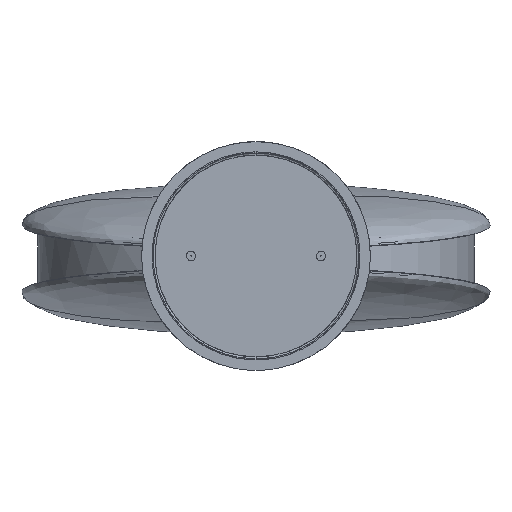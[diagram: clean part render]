
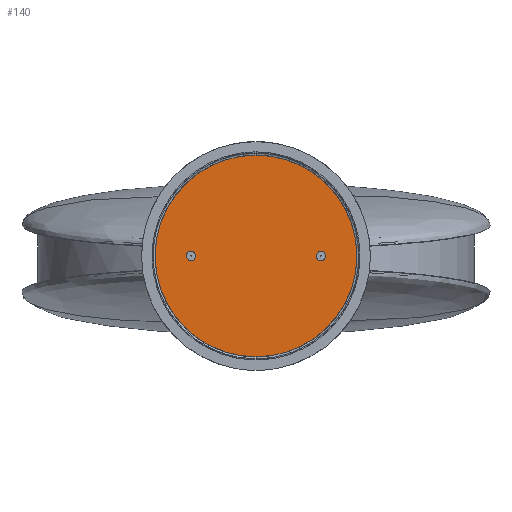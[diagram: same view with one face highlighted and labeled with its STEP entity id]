
A CAD part, top view. The second image highlights one B-rep face of the part: STEP entity #140.
In plain terms, the highlighted planar face has unit normal (0, 0, 1).
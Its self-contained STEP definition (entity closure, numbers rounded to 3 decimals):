
#140=ADVANCED_FACE('',(#230),#1165,.T.);
#230=FACE_OUTER_BOUND('',#326,.T.);
#326=EDGE_LOOP('',(#638,#639));
#638=ORIENTED_EDGE('',*,*,#836,.T.);
#639=ORIENTED_EDGE('',*,*,#837,.T.);
#836=EDGE_CURVE('',#1126,#1127,#909,.T.);
#837=EDGE_CURVE('',#1127,#1126,#910,.T.);
#909=B_SPLINE_CURVE_WITH_KNOTS('',3,(#4398,#4399,#4400,#4401,#4402,#4403,
#4404,#4405,#4406,#4407,#4408,#4409,#4410,#4411,#4412,#4413,#4414,#4415,
#4416,#4417,#4418,#4419,#4420,#4421,#4422,#4423,#4424,#4425,#4426,#4427,
#4428,#4429,#4430,#4431,#4432,#4433,#4434),.UNSPECIFIED.,.F.,.F.,(4,1,1,
1,1,1,1,1,1,1,1,1,1,1,1,1,3,1,1,1,1,1,1,1,1,1,1,1,1,1,1,1,4),(0.,9.534,
19.068,28.603,38.137,47.671,57.205,
66.739,76.273,85.808,95.342,104.876,
114.41,123.944,133.478,143.013,152.547,
162.081,171.615,181.149,190.684,200.218,
209.752,219.286,228.82,238.354,247.889,
257.423,266.957,276.491,286.025,295.559,
305.094),.UNSPECIFIED.);
#910=B_SPLINE_CURVE_WITH_KNOTS('',3,(#4435,#4436,#4437,#4438,#4439,#4440,
#4441,#4442,#4443,#4444,#4445,#4446,#4447,#4448,#4449,#4450,#4451,#4452,
#4453,#4454,#4455,#4456,#4457,#4458,#4459,#4460,#4461,#4462,#4463,#4464,
#4465,#4466,#4467,#4468,#4469,#4470,#4471),.UNSPECIFIED.,.F.,.F.,(4,1,1,
1,1,1,1,1,1,1,1,1,1,1,1,1,3,1,1,1,1,1,1,1,1,1,1,1,1,1,1,1,4),(0.,9.534,
19.068,28.603,38.137,47.671,57.205,
66.739,76.273,85.808,95.342,104.876,
114.41,123.944,133.478,143.013,152.547,
162.081,171.615,181.149,190.684,200.218,
209.752,219.286,228.82,238.354,247.889,
257.423,266.957,276.491,286.025,295.559,
305.094),.UNSPECIFIED.);
#1126=VERTEX_POINT('',#4306);
#1127=VERTEX_POINT('',#4307);
#1165=PLANE('',#1344);
#1344=AXIS2_PLACEMENT_3D('',#4262,#1413,$);
#1413=DIRECTION('',(0.,0.,1.));
#4262=CARTESIAN_POINT('',(-116.412,-116.412,1122.466));
#4306=CARTESIAN_POINT('',(0.,-97.,1122.466));
#4307=CARTESIAN_POINT('',(0.,97.,1122.466));
#4398=CARTESIAN_POINT('',(0.,-97.,1122.466));
#4399=CARTESIAN_POINT('',(2.858,-97.,1122.466));
#4400=CARTESIAN_POINT('',(8.679,-96.747,1122.466));
#4401=CARTESIAN_POINT('',(17.632,-95.531,1122.466));
#4402=CARTESIAN_POINT('',(26.694,-93.413,1122.466));
#4403=CARTESIAN_POINT('',(35.733,-90.35,1122.466));
#4404=CARTESIAN_POINT('',(44.605,-86.323,1122.466));
#4405=CARTESIAN_POINT('',(53.158,-81.341,1122.466));
#4406=CARTESIAN_POINT('',(61.241,-75.446,1122.466));
#4407=CARTESIAN_POINT('',(68.712,-68.712,1122.466));
#4408=CARTESIAN_POINT('',(75.446,-61.241,1122.466));
#4409=CARTESIAN_POINT('',(81.341,-53.158,1122.466));
#4410=CARTESIAN_POINT('',(86.323,-44.605,1122.466));
#4411=CARTESIAN_POINT('',(90.35,-35.733,1122.466));
#4412=CARTESIAN_POINT('',(93.413,-26.694,1122.466));
#4413=CARTESIAN_POINT('',(95.531,-17.632,1122.466));
#4414=CARTESIAN_POINT('',(96.747,-8.679,1122.466));
#4415=CARTESIAN_POINT('',(97.,-2.858,1122.466));
#4416=CARTESIAN_POINT('',(97.,0.,1122.466));
#4417=CARTESIAN_POINT('',(97.,2.858,1122.466));
#4418=CARTESIAN_POINT('',(96.747,8.679,1122.466));
#4419=CARTESIAN_POINT('',(95.531,17.632,1122.466));
#4420=CARTESIAN_POINT('',(93.413,26.694,1122.466));
#4421=CARTESIAN_POINT('',(90.35,35.733,1122.466));
#4422=CARTESIAN_POINT('',(86.323,44.605,1122.466));
#4423=CARTESIAN_POINT('',(81.341,53.158,1122.466));
#4424=CARTESIAN_POINT('',(75.446,61.241,1122.466));
#4425=CARTESIAN_POINT('',(68.712,68.712,1122.466));
#4426=CARTESIAN_POINT('',(61.241,75.446,1122.466));
#4427=CARTESIAN_POINT('',(53.158,81.341,1122.466));
#4428=CARTESIAN_POINT('',(44.605,86.323,1122.466));
#4429=CARTESIAN_POINT('',(35.733,90.35,1122.466));
#4430=CARTESIAN_POINT('',(26.694,93.413,1122.466));
#4431=CARTESIAN_POINT('',(17.632,95.531,1122.466));
#4432=CARTESIAN_POINT('',(8.679,96.747,1122.466));
#4433=CARTESIAN_POINT('',(2.858,97.,1122.466));
#4434=CARTESIAN_POINT('',(0.,97.,1122.466));
#4435=CARTESIAN_POINT('',(0.,97.,1122.466));
#4436=CARTESIAN_POINT('',(-2.858,97.,1122.466));
#4437=CARTESIAN_POINT('',(-8.679,96.747,1122.466));
#4438=CARTESIAN_POINT('',(-17.632,95.531,1122.466));
#4439=CARTESIAN_POINT('',(-26.694,93.413,1122.466));
#4440=CARTESIAN_POINT('',(-35.733,90.35,1122.466));
#4441=CARTESIAN_POINT('',(-44.605,86.323,1122.466));
#4442=CARTESIAN_POINT('',(-53.158,81.341,1122.466));
#4443=CARTESIAN_POINT('',(-61.241,75.446,1122.466));
#4444=CARTESIAN_POINT('',(-68.712,68.712,1122.466));
#4445=CARTESIAN_POINT('',(-75.446,61.241,1122.466));
#4446=CARTESIAN_POINT('',(-81.341,53.158,1122.466));
#4447=CARTESIAN_POINT('',(-86.323,44.605,1122.466));
#4448=CARTESIAN_POINT('',(-90.35,35.733,1122.466));
#4449=CARTESIAN_POINT('',(-93.413,26.694,1122.466));
#4450=CARTESIAN_POINT('',(-95.531,17.632,1122.466));
#4451=CARTESIAN_POINT('',(-96.747,8.679,1122.466));
#4452=CARTESIAN_POINT('',(-97.,2.858,1122.466));
#4453=CARTESIAN_POINT('',(-97.,0.,1122.466));
#4454=CARTESIAN_POINT('',(-97.,-2.858,1122.466));
#4455=CARTESIAN_POINT('',(-96.747,-8.679,1122.466));
#4456=CARTESIAN_POINT('',(-95.531,-17.632,1122.466));
#4457=CARTESIAN_POINT('',(-93.413,-26.694,1122.466));
#4458=CARTESIAN_POINT('',(-90.35,-35.733,1122.466));
#4459=CARTESIAN_POINT('',(-86.323,-44.605,1122.466));
#4460=CARTESIAN_POINT('',(-81.341,-53.158,1122.466));
#4461=CARTESIAN_POINT('',(-75.446,-61.241,1122.466));
#4462=CARTESIAN_POINT('',(-68.712,-68.712,1122.466));
#4463=CARTESIAN_POINT('',(-61.241,-75.446,1122.466));
#4464=CARTESIAN_POINT('',(-53.158,-81.341,1122.466));
#4465=CARTESIAN_POINT('',(-44.605,-86.323,1122.466));
#4466=CARTESIAN_POINT('',(-35.733,-90.35,1122.466));
#4467=CARTESIAN_POINT('',(-26.694,-93.413,1122.466));
#4468=CARTESIAN_POINT('',(-17.632,-95.531,1122.466));
#4469=CARTESIAN_POINT('',(-8.679,-96.747,1122.466));
#4470=CARTESIAN_POINT('',(-2.858,-97.,1122.466));
#4471=CARTESIAN_POINT('',(0.,-97.,1122.466));
